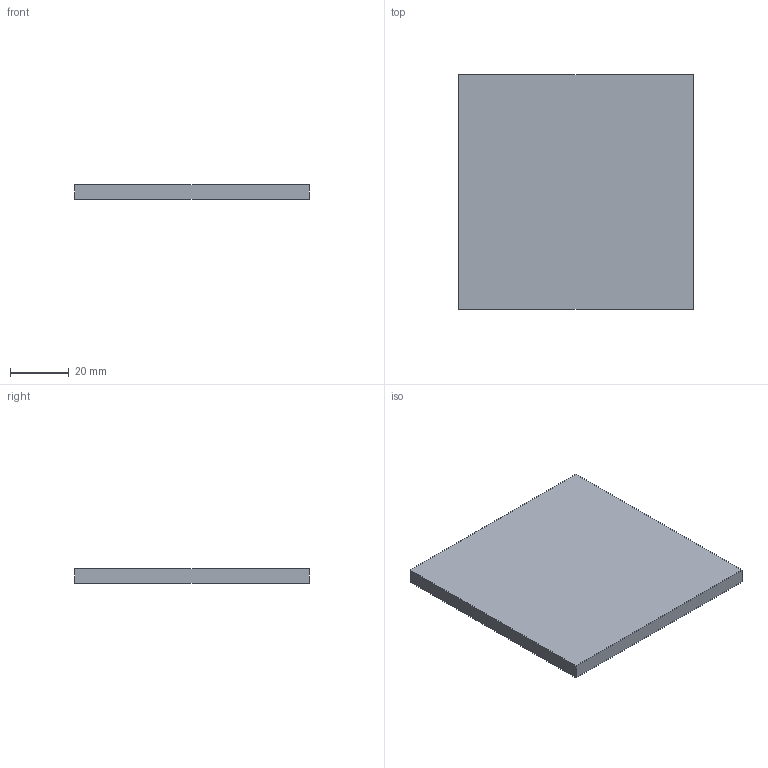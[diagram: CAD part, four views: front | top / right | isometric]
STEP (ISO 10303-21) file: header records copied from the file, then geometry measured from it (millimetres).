
FILE_DESCRIPTION((''),'2;1');
FILE_NAME('C:\Documents and Settings\AMS8\デスクトップ\2013from西村作業用\既存3D\エンドキャップiges\ECP-8080-8.stp','2013-08-06T13:50:21',('AMS8'),(''),'Autodesk Inventor 2008','Autodesk Inventor 2008','');
FILE_SCHEMA(('AUTOMOTIVE_DESIGN { 1 0 10303 214 1 1 1 1 }'));
Length unit declared in the file: millimetre
Products named in the file (1): ECP-8080-8
Bounding box: 80 x 80 x 5 mm (x, y, z)
Volume: 32000 mm3; surface area: 14400 mm2
Topology: 1 solids, 1 shells, 6 faces, 12 edges, 8 vertices
Faces by surface type: plane 6
Entity records: 182 total; most frequent: CARTESIAN_POINT 27, DIRECTION 26, ORIENTED_EDGE 24, VECTOR 12, LINE 12, EDGE_CURVE 12, VERTEX_POINT 8, AXIS2_PLACEMENT_3D 7
